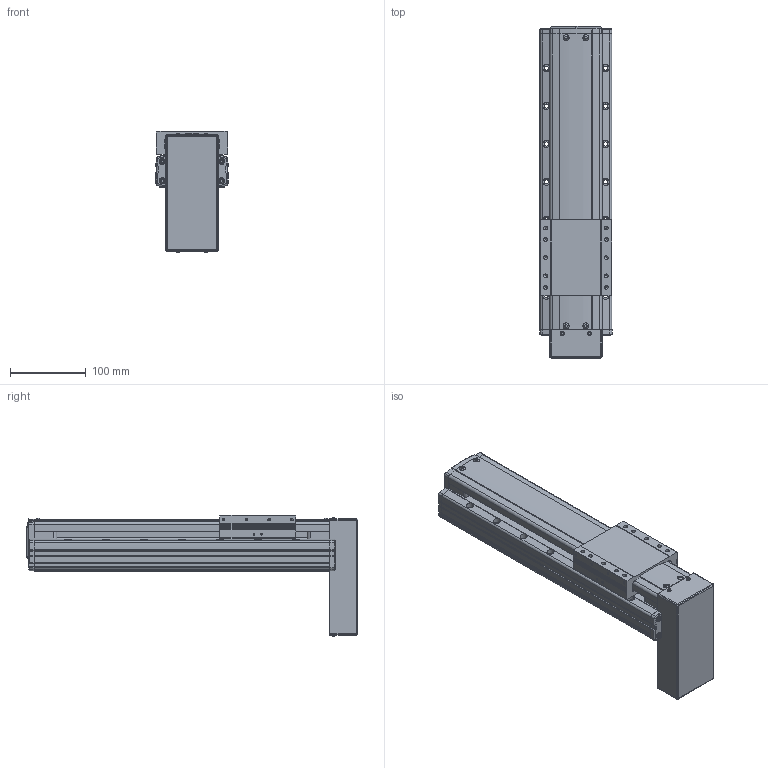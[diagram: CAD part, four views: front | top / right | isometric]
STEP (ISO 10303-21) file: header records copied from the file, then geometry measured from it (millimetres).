
FILE_DESCRIPTION(('STEP AP214'),'1');
FILE_NAME('Z:/Web/3D/PSA95/STP/PSA95-200 (3D)/PSA95ㅁㅁ-200PB.stp','2014-07-02T23:54:31',(' '),(' '),'Spatial InterOp 3D',' ',' ');
FILE_SCHEMA(('automotive_design'));
Length unit declared in the file: millimetre
Products named in the file (29): BASE; RRCV; 스크루 : Round - M4.0 x 10.0; 너트 : Square - M10.0 x 220.7419; RR1500; FRCV-090; 스크루 : Round - M4.0 x 6.0; SLBL-PA90; MTPL COVER; 스크루 : Round - M3.0 x 6.0; 1; 2
Bounding box: 95.1 x 437.5 x 159.57 mm (x, y, z)
Volume: 2602358.8 mm3; surface area: 302666.3 mm2
Topology: 29 solids, 29 shells, 1977 faces, 5265 edges, 3361 vertices
Faces by surface type: plane 1126, cylinder 569, cone 194, sphere 50, bspline 24, torus 14
Entity records: 79416 total; most frequent: CARTESIAN_POINT 13531, DIRECTION 10432, ORIENTED_EDGE 10298, EDGE_CURVE 5149, LINE 3520, VECTOR 3520, AXIS2_PLACEMENT_3D 3456, VERTEX_POINT 3361
